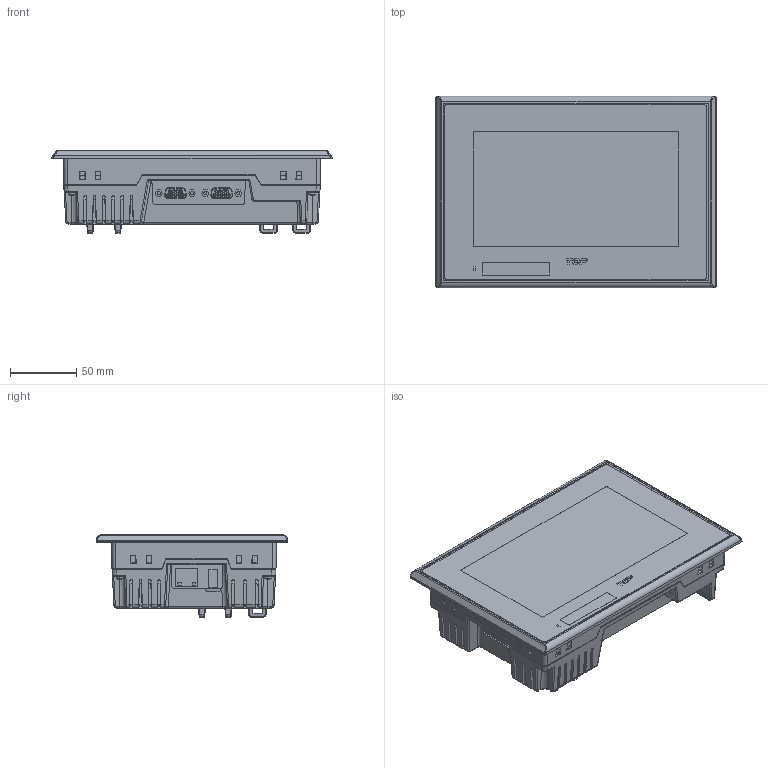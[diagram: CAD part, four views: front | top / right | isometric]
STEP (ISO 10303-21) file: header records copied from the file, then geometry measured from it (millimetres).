
FILE_DESCRIPTION((''),'2;1');
FILE_NAME('3D_MODEL','2022-08-04T10:01:05',('Youngmin'),(''),'CREO PARAMETRIC BY PTC INC, 2020454','CREO PARAMETRIC BY PTC INC, 2020454','');
FILE_SCHEMA(('CONFIG_CONTROL_DESIGN'));
Products named in the file (1): 3D_MODEL
Bounding box: 212 x 145 x 62.5 mm (x, y, z)
Volume: 1247119.3 mm3; surface area: 111520.9 mm2
Topology: 1 solids, 18 shells, 4651 faces, 12785 edges, 8288 vertices
Faces by surface type: plane 3451, cylinder 824, cone 174, bspline 104, extrusion 74, torus 16, sphere 8
Entity records: 154427 total; most frequent: CARTESIAN_POINT 38564, ORIENTED_EDGE 25570, DIRECTION 21585, EDGE_CURVE 12785, VECTOR 10103, LINE 10029, VERTEX_POINT 8288, AXIS2_PLACEMENT_3D 5741
